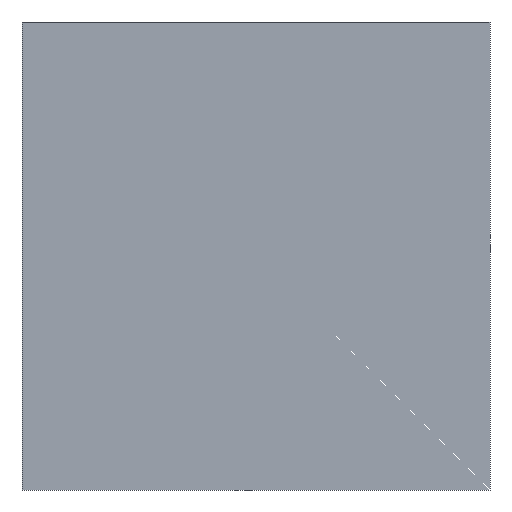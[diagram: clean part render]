
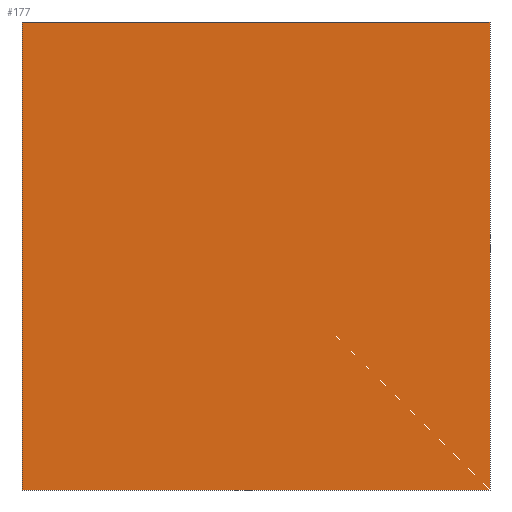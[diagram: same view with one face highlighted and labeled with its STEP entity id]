
A CAD part, front view. The second image highlights one B-rep face of the part: STEP entity #177.
In plain terms, the highlighted planar face has unit normal (0, -1, 0).
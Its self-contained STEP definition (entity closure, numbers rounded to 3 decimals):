
#5 = CARTESIAN_POINT ( 'NONE',  ( -197., 0., 197. ) ) ;
#7 = PLANE ( 'NONE',  #71 ) ;
#11 = ORIENTED_EDGE ( 'NONE', *, *, #195, .F. ) ;
#18 = CARTESIAN_POINT ( 'NONE',  ( -197., 0., -197. ) ) ;
#19 = CARTESIAN_POINT ( 'NONE',  ( -197., 0., 197. ) ) ;
#29 = ORIENTED_EDGE ( 'NONE', *, *, #133, .F. ) ;
#40 = DIRECTION ( 'NONE',  ( 0., 0., 1. ) ) ;
#45 = EDGE_CURVE ( 'NONE', #50, #77, #95, .T. ) ;
#47 = CARTESIAN_POINT ( 'NONE',  ( 197., 0., 197. ) ) ;
#50 = VERTEX_POINT ( 'NONE', #5 ) ;
#52 = VECTOR ( 'NONE', #127, 1000. ) ;
#67 = CARTESIAN_POINT ( 'NONE',  ( 197., 0., -197. ) ) ;
#71 = AXIS2_PLACEMENT_3D ( 'NONE', #118, #88, #169 ) ;
#77 = VERTEX_POINT ( 'NONE', #47 ) ;
#80 = VECTOR ( 'NONE', #153, 1000. ) ;
#88 = DIRECTION ( 'NONE',  ( 0., -1., 0. ) ) ;
#95 = LINE ( 'NONE', #19, #80 ) ;
#98 = CARTESIAN_POINT ( 'NONE',  ( 197., 0., 197. ) ) ;
#104 = DIRECTION ( 'NONE',  ( 0., 0., -1. ) ) ;
#109 = EDGE_LOOP ( 'NONE', ( #11, #148, #163, #29 ) ) ;
#118 = CARTESIAN_POINT ( 'NONE',  ( 0., 0., 0. ) ) ;
#121 = LINE ( 'NONE', #193, #139 ) ;
#123 = FACE_OUTER_BOUND ( 'NONE', #109, .T. ) ;
#127 = DIRECTION ( 'NONE',  ( -1., 0., 0. ) ) ;
#133 = EDGE_CURVE ( 'NONE', #174, #167, #182, .T. ) ;
#139 = VECTOR ( 'NONE', #40, 1000. ) ;
#148 = ORIENTED_EDGE ( 'NONE', *, *, #45, .F. ) ;
#153 = DIRECTION ( 'NONE',  ( 1., 0., 0. ) ) ;
#154 = CARTESIAN_POINT ( 'NONE',  ( -197., 0., -197. ) ) ;
#156 = VECTOR ( 'NONE', #104, 1000. ) ;
#163 = ORIENTED_EDGE ( 'NONE', *, *, #198, .F. ) ;
#167 = VERTEX_POINT ( 'NONE', #154 ) ;
#169 = DIRECTION ( 'NONE',  ( 0., 0., -1. ) ) ;
#174 = VERTEX_POINT ( 'NONE', #67 ) ;
#177 = ADVANCED_FACE ( 'NONE', ( #123 ), #7, .T. ) ;
#182 = LINE ( 'NONE', #18, #52 ) ;
#191 = LINE ( 'NONE', #98, #156 ) ;
#193 = CARTESIAN_POINT ( 'NONE',  ( -197., 0., 197. ) ) ;
#195 = EDGE_CURVE ( 'NONE', #77, #174, #191, .T. ) ;
#198 = EDGE_CURVE ( 'NONE', #167, #50, #121, .T. ) ;
